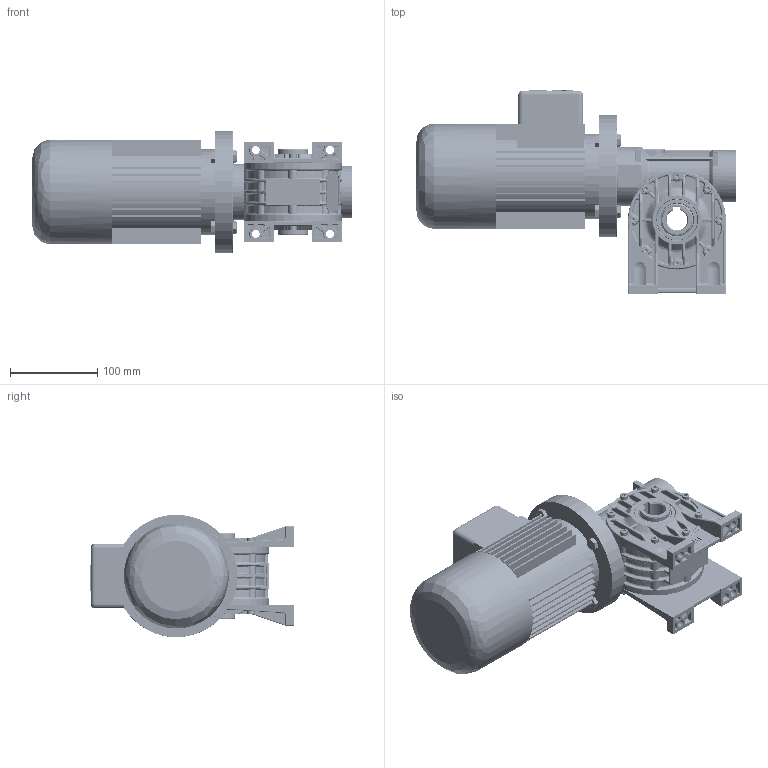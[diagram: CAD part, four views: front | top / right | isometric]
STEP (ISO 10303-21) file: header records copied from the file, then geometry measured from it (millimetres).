
FILE_DESCRIPTION (( 'STEP AP203' ), '1' );
FILE_NAME ('3F002071.STEP', '2012-07-23T05:38:11', ( 'Amministratore' ), ( 'SerteK sas' ), 'SwSTEP 2.0', 'SolidWorks 2009', '' );
FILE_SCHEMA (( 'CONFIG_CONTROL_DESIGN' ));
Products named in the file (1): 3F002071
Bounding box: 365 x 234 x 140 mm (x, y, z)
Surface area: 450702.8 mm2 (no closed solid volume)
Topology: 0 solids, 47 shells, 7315 faces, 18351 edges, 11083 vertices
Faces by surface type: bspline 2658, cylinder 2470, plane 1723, cone 464
Entity records: 354530 total; most frequent: CARTESIAN_POINT 204031, ORIENTED_EDGE 36214, DIRECTION 24499, EDGE_CURVE 18123, VERTEX_POINT 11083, AXIS2_PLACEMENT_3D 9276, EDGE_LOOP 7612, ADVANCED_FACE 7317
